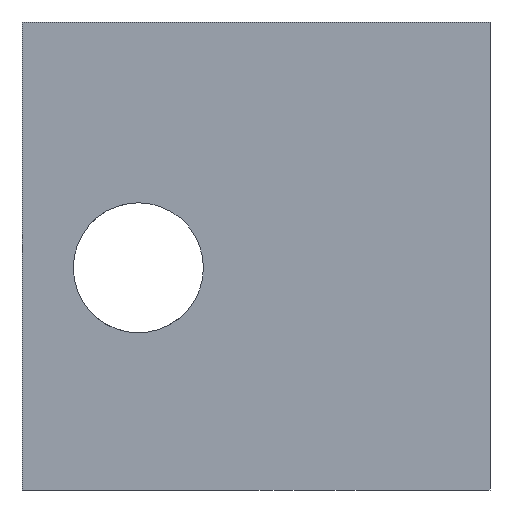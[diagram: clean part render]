
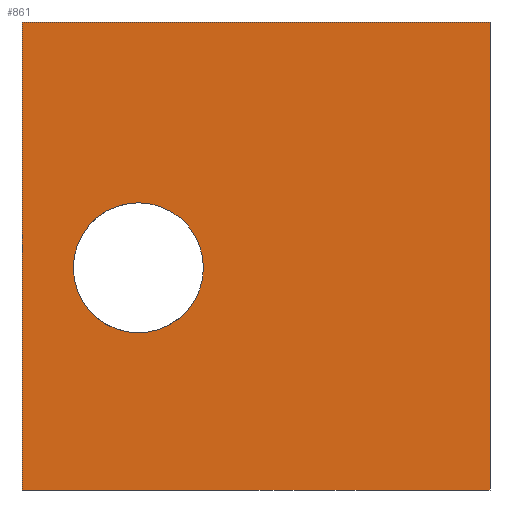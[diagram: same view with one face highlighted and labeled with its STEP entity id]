
A CAD part, front view. The second image highlights one B-rep face of the part: STEP entity #861.
In plain terms, the highlighted planar face has unit normal (0, -1, 0).
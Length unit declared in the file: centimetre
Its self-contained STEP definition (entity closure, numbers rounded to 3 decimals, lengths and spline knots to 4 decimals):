
#22 = CARTESIAN_POINT ( 'NONE',  ( 248.5729, 0., 474.8078 ) ) ;
#33 = CARTESIAN_POINT ( 'NONE',  ( 0., 0., 0. ) ) ;
#45 = FACE_BOUND ( 'NONE', #344, .T. ) ;
#48 = EDGE_CURVE ( 'NONE', #287, #800, #334, .T. ) ;
#78 = EDGE_CURVE ( 'NONE', #596, #377, #365, .T. ) ;
#103 = VECTOR ( 'NONE', #836, 100. ) ;
#104 = CARTESIAN_POINT ( 'NONE',  ( 248.5729, 0., 474.8078 ) ) ;
#107 = ORIENTED_EDGE ( 'NONE', *, *, #695, .F. ) ;
#125 = CIRCLE ( 'NONE', #227, 138.9758 ) ;
#144 = LINE ( 'NONE', #644, #493 ) ;
#149 = DIRECTION ( 'NONE',  ( 1., 0., 0. ) ) ;
#160 = CARTESIAN_POINT ( 'NONE',  ( 1000., 0., 1000. ) ) ;
#161 = VERTEX_POINT ( 'NONE', #448 ) ;
#165 = AXIS2_PLACEMENT_3D ( 'NONE', #104, #578, #783 ) ;
#185 = ORIENTED_EDGE ( 'NONE', *, *, #78, .T. ) ;
#218 = EDGE_CURVE ( 'NONE', #377, #596, #125, .T. ) ;
#227 = AXIS2_PLACEMENT_3D ( 'NONE', #22, #235, #398 ) ;
#235 = DIRECTION ( 'NONE',  ( 0., 1., 0. ) ) ;
#262 = DIRECTION ( 'NONE',  ( 0., 1., 0. ) ) ;
#274 = LINE ( 'NONE', #560, #103 ) ;
#287 = VERTEX_POINT ( 'NONE', #735 ) ;
#288 = CARTESIAN_POINT ( 'NONE',  ( 1000., 0., 1000. ) ) ;
#298 = VECTOR ( 'NONE', #893, 100. ) ;
#301 = DIRECTION ( 'NONE',  ( 0., 0., -1. ) ) ;
#307 = CARTESIAN_POINT ( 'NONE',  ( 248.5729, 0., 335.832 ) ) ;
#315 = ORIENTED_EDGE ( 'NONE', *, *, #577, .T. ) ;
#334 = LINE ( 'NONE', #33, #298 ) ;
#336 = FACE_OUTER_BOUND ( 'NONE', #369, .T. ) ;
#344 = EDGE_LOOP ( 'NONE', ( #185, #541 ) ) ;
#365 = CIRCLE ( 'NONE', #165, 138.9758 ) ;
#368 = LINE ( 'NONE', #288, #441 ) ;
#369 = EDGE_LOOP ( 'NONE', ( #845, #608, #107, #315 ) ) ;
#377 = VERTEX_POINT ( 'NONE', #307 ) ;
#398 = DIRECTION ( 'NONE',  ( 0., 0., 1. ) ) ;
#410 = CARTESIAN_POINT ( 'NONE',  ( 1000., 0., 0. ) ) ;
#441 = VECTOR ( 'NONE', #301, 100. ) ;
#448 = CARTESIAN_POINT ( 'NONE',  ( 0., 0., 1000. ) ) ;
#493 = VECTOR ( 'NONE', #149, 100. ) ;
#541 = ORIENTED_EDGE ( 'NONE', *, *, #218, .T. ) ;
#560 = CARTESIAN_POINT ( 'NONE',  ( 0., 0., 1000. ) ) ;
#577 = EDGE_CURVE ( 'NONE', #161, #287, #274, .T. ) ;
#578 = DIRECTION ( 'NONE',  ( 0., 1., 0. ) ) ;
#596 = VERTEX_POINT ( 'NONE', #631 ) ;
#608 = ORIENTED_EDGE ( 'NONE', *, *, #614, .F. ) ;
#614 = EDGE_CURVE ( 'NONE', #731, #800, #368, .T. ) ;
#631 = CARTESIAN_POINT ( 'NONE',  ( 248.5729, 0., 613.7836 ) ) ;
#644 = CARTESIAN_POINT ( 'NONE',  ( 0., 0., 1000. ) ) ;
#695 = EDGE_CURVE ( 'NONE', #161, #731, #144, .T. ) ;
#719 = AXIS2_PLACEMENT_3D ( 'NONE', #895, #262, #754 ) ;
#731 = VERTEX_POINT ( 'NONE', #160 ) ;
#735 = CARTESIAN_POINT ( 'NONE',  ( 0., 0., 0. ) ) ;
#754 = DIRECTION ( 'NONE',  ( 0., 0., 1. ) ) ;
#783 = DIRECTION ( 'NONE',  ( 0., 0., 1. ) ) ;
#800 = VERTEX_POINT ( 'NONE', #410 ) ;
#822 = PLANE ( 'NONE',  #719 ) ;
#836 = DIRECTION ( 'NONE',  ( 0., 0., -1. ) ) ;
#845 = ORIENTED_EDGE ( 'NONE', *, *, #48, .T. ) ;
#861 = ADVANCED_FACE ( 'NONE', ( #45, #336 ), #822, .F. ) ;
#893 = DIRECTION ( 'NONE',  ( 1., 0., 0. ) ) ;
#895 = CARTESIAN_POINT ( 'NONE',  ( 0., 0., 1000. ) ) ;
